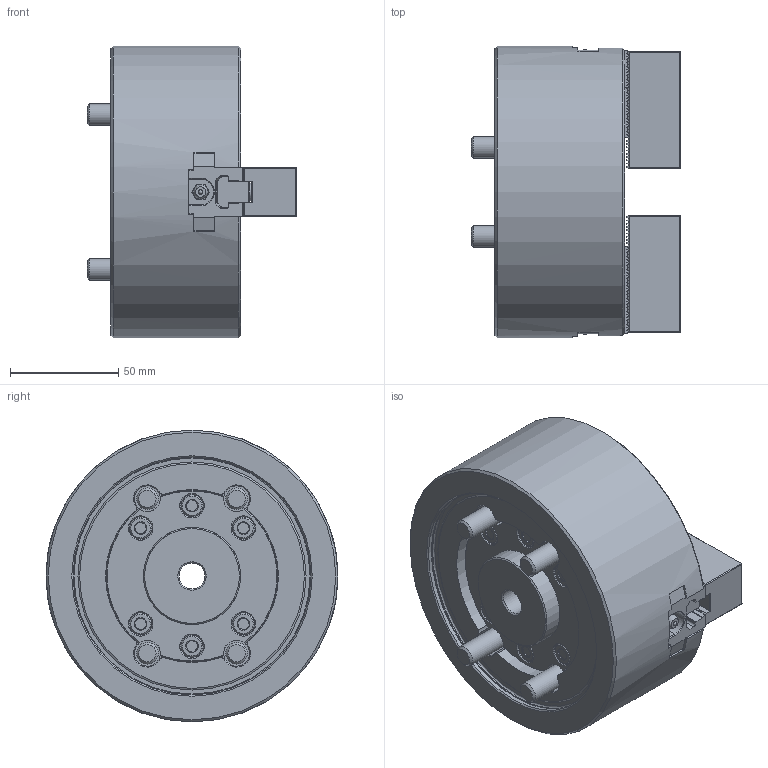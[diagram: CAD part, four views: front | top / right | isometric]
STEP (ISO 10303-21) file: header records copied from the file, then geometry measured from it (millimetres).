
FILE_DESCRIPTION (( 'STEP AP214' ), '1' );
FILE_NAME ('DT1_BT205_OUTSIDE_VIEW_HCL.STEP', '2024-05-08T23:47:57', ( '' ), ( '' ), 'SwSTEP 2.0', 'SolidWorks 2022', '' );
FILE_SCHEMA (( 'AUTOMOTIVE_DESIGN' ));
Length unit declared in the file: millimetre
Products named in the file (9): DT1_BT205_M8x20^DT1-BT205_ﾃﾞﾌｫﾙﾄ; DT1_BT205_M4x8^DT1-BT205_ﾃﾞﾌｫﾙﾄ; DT1_BT205_M10x60^DT1-BT205_ﾃﾞﾌｫﾙﾄ; DT1_BT205_TNUT^DT1-BT205_ﾃﾞﾌｫﾙﾄ; DT1_BT205_DRAWNUT^DT1-BT205_ﾃﾞﾌｫﾙﾄ; DT1_BT205_SOFTJAW^DT1-BT205_ﾃﾞﾌｫﾙﾄ; DT1_BT205_OUTSIDE_VIEW_HCL; DT1_BT205_BASE^DT1-BT205_ﾃﾞﾌｫﾙﾄ; DT1_BT205_COVER^DT1-BT205_ﾃﾞﾌｫﾙﾄ
Assembly tree (19 placements, depth 2):
  DT1_BT205_OUTSIDE_VIEW_HCL
    DT1_BT205_SOFTJAW^DT1-BT205_ﾃﾞﾌｫﾙﾄ  x2
    DT1_BT205_TNUT^DT1-BT205_ﾃﾞﾌｫﾙﾄ  x2
    DT1_BT205_DRAWNUT^DT1-BT205_ﾃﾞﾌｫﾙﾄ
    DT1_BT205_COVER^DT1-BT205_ﾃﾞﾌｫﾙﾄ
    DT1_BT205_BASE^DT1-BT205_ﾃﾞﾌｫﾙﾄ
    DT1_BT205_M4x8^DT1-BT205_ﾃﾞﾌｫﾙﾄ  x4
    DT1_BT205_M8x20^DT1-BT205_ﾃﾞﾌｫﾙﾄ  x4
    DT1_BT205_M10x60^DT1-BT205_ﾃﾞﾌｫﾙﾄ  x4
Bounding box: 97 x 135 x 135 mm (x, y, z)
Volume: 808588.2 mm3; surface area: 136910.9 mm2
Topology: 19 solids, 27 shells, 2489 faces, 6901 edges, 4551 vertices
Faces by surface type: plane 1772, cylinder 454, cone 122, bspline 122, torus 15, sphere 4
Full cylindrical faces by diameter (mm): 3.3 x4, 4 x4, 4.5 x4, 6.8 x4, 7.5 x4, 8 x4, 8.5 x8, 10 x4, 10.22 x6, 10.5 x6, 12 x5, 13.27 x4, 13.5 x4, 16.27 x4, 17 x4, 33 x1, 36 x2, 40.5 x1, 43.5 x1, 45 x2, 110 x1, 110.8 x1, 135 x1
Entity records: 67518 total; most frequent: CARTESIAN_POINT 18091, ORIENTED_EDGE 10832, DIRECTION 8963, EDGE_CURVE 5416, LINE 4131, VECTOR 4131, VERTEX_POINT 3640, AXIS2_PLACEMENT_3D 2416
